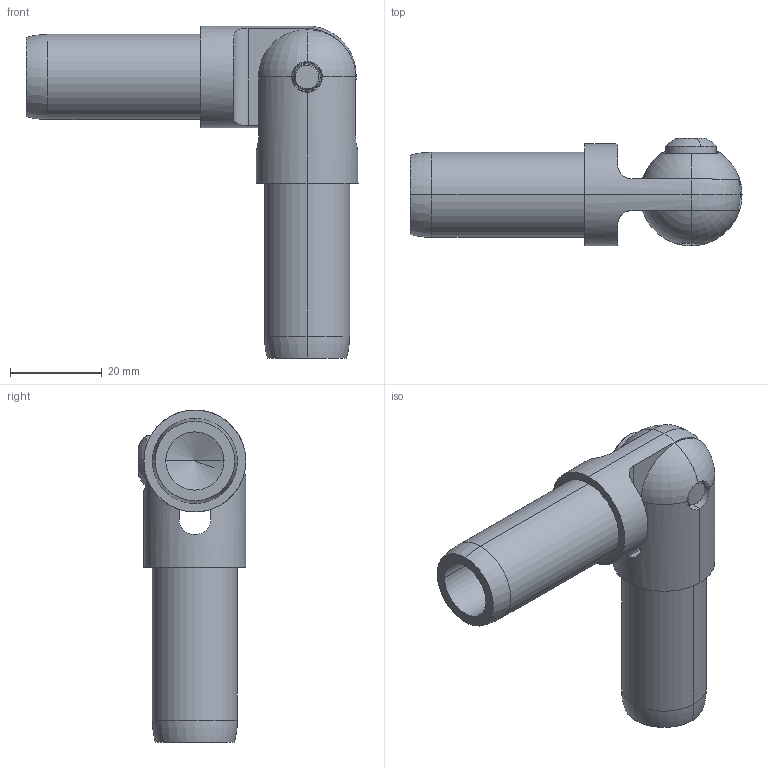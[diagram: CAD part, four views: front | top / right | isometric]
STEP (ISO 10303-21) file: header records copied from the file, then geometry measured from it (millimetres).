
FILE_DESCRIPTION (( 'STEP AP214' ), '1' );
FILE_NAME ('0.75 Inch In-Plane Adjustable Angle 2-Tube Joint Kit.STEP', '2014-01-09T15:36:27', ( 'ydmin' ), ( 'Microsoft' ), 'SwSTEP 2.0', 'SolidWorks 2013', '' );
FILE_SCHEMA (( 'AUTOMOTIVE_DESIGN' ));
Length unit declared in the file: inch
Products named in the file (1): 0.75 Inch In-Plane Adjustable Angle 2-Tube Joint Kit
Bounding box: 72.38 x 23.48 x 72.38 mm (x, y, z)
Volume: 24923.7 mm3; surface area: 14902.9 mm2
Topology: 4 solids, 4 shells, 215 faces, 467 edges, 259 vertices
Faces by surface type: cylinder 86, cone 79, plane 30, torus 10, bspline 8, sphere 2
Entity records: 12268 total; most frequent: CARTESIAN_POINT 4950, ORIENTED_EDGE 922, DIRECTION 915, EDGE_CURVE 461, AXIS2_PLACEMENT_3D 359, VERTEX_POINT 259, EDGE_LOOP 226, UNCERTAINTY_MEASURE_WITH_UNIT 221
